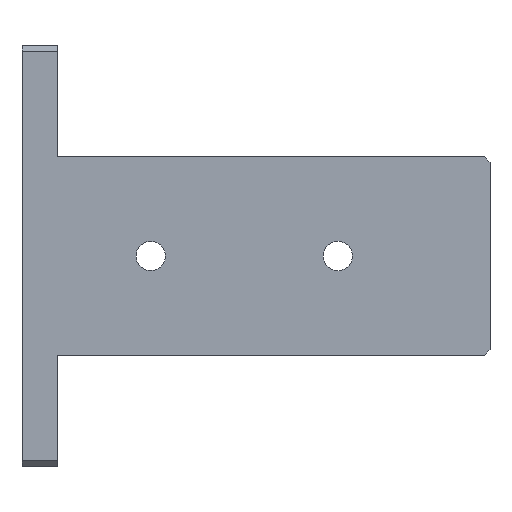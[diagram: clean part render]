
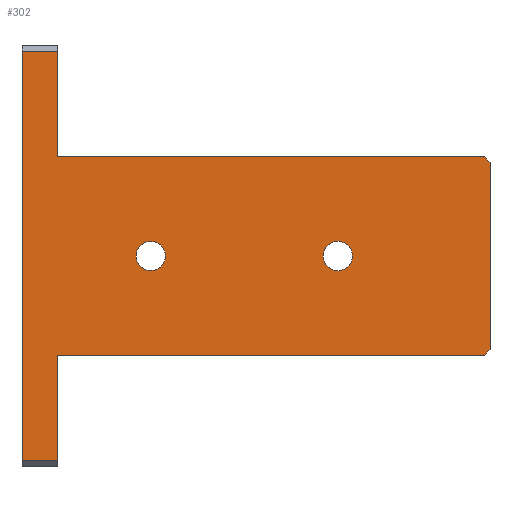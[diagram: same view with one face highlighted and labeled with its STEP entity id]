
A CAD part, front view. The second image highlights one B-rep face of the part: STEP entity #302.
In plain terms, the highlighted planar face has unit normal (0, -1, 0).
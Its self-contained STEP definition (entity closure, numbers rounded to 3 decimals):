
#13 = CARTESIAN_POINT ( 'NONE',  ( 3., 0., -17.5 ) ) ;
#47 = DIRECTION ( 'NONE',  ( 0., 0., 1. ) ) ;
#51 = VECTOR ( 'NONE', #587, 1000. ) ;
#59 = EDGE_LOOP ( 'NONE', ( #1165, #324 ) ) ;
#92 = ORIENTED_EDGE ( 'NONE', *, *, #1196, .T. ) ;
#103 = VERTEX_POINT ( 'NONE', #1677 ) ;
#117 = LINE ( 'NONE', #926, #297 ) ;
#125 = CARTESIAN_POINT ( 'NONE',  ( 0., 0., -17.5 ) ) ;
#137 = EDGE_CURVE ( 'NONE', #619, #795, #1133, .T. ) ;
#171 = ORIENTED_EDGE ( 'NONE', *, *, #286, .T. ) ;
#173 = CARTESIAN_POINT ( 'NONE',  ( 27., 0., 0. ) ) ;
#184 = LINE ( 'NONE', #1261, #51 ) ;
#190 = VECTOR ( 'NONE', #963, 1000. ) ;
#212 = CIRCLE ( 'NONE', #1203, 1.25 ) ;
#233 = EDGE_CURVE ( 'NONE', #727, #842, #1361, .T. ) ;
#246 = EDGE_CURVE ( 'NONE', #930, #438, #184, .T. ) ;
#256 = CARTESIAN_POINT ( 'NONE',  ( 11., 0., 1.25 ) ) ;
#261 = CARTESIAN_POINT ( 'NONE',  ( 0., 0., 18. ) ) ;
#263 = ORIENTED_EDGE ( 'NONE', *, *, #1345, .T. ) ;
#270 = VECTOR ( 'NONE', #1612, 1000. ) ;
#285 = DIRECTION ( 'NONE',  ( 0., 0., -1. ) ) ;
#286 = EDGE_CURVE ( 'NONE', #1040, #1009, #1757, .T. ) ;
#297 = VECTOR ( 'NONE', #523, 1000. ) ;
#302 = ADVANCED_FACE ( 'NONE', ( #1742, #1216, #1619 ), #656, .T. ) ;
#324 = ORIENTED_EDGE ( 'NONE', *, *, #907, .F. ) ;
#335 = VERTEX_POINT ( 'NONE', #908 ) ;
#359 = ORIENTED_EDGE ( 'NONE', *, *, #1100, .T. ) ;
#384 = DIRECTION ( 'NONE',  ( 1., 0., 0. ) ) ;
#388 = DIRECTION ( 'NONE',  ( 0., 0., -1. ) ) ;
#409 = CARTESIAN_POINT ( 'NONE',  ( 27., 0., 1.25 ) ) ;
#416 = EDGE_CURVE ( 'NONE', #795, #1040, #701, .T. ) ;
#426 = LINE ( 'NONE', #1639, #190 ) ;
#432 = ORIENTED_EDGE ( 'NONE', *, *, #137, .T. ) ;
#438 = VERTEX_POINT ( 'NONE', #959 ) ;
#493 = CARTESIAN_POINT ( 'NONE',  ( 0., 0., 17.5 ) ) ;
#508 = AXIS2_PLACEMENT_3D ( 'NONE', #261, #1314, #517 ) ;
#517 = DIRECTION ( 'NONE',  ( 0., 0., -1. ) ) ;
#518 = LINE ( 'NONE', #1052, #270 ) ;
#523 = DIRECTION ( 'NONE',  ( -0.707, 0., 0.707 ) ) ;
#533 = VECTOR ( 'NONE', #47, 1000. ) ;
#535 = CARTESIAN_POINT ( 'NONE',  ( 3., 0., 8.5 ) ) ;
#587 = DIRECTION ( 'NONE',  ( 1., 0., 0. ) ) ;
#619 = VERTEX_POINT ( 'NONE', #933 ) ;
#656 = PLANE ( 'NONE',  #508 ) ;
#682 = DIRECTION ( 'NONE',  ( 0., 0., -1. ) ) ;
#699 = CARTESIAN_POINT ( 'NONE',  ( 33., 0., -15. ) ) ;
#701 = LINE ( 'NONE', #823, #1448 ) ;
#715 = DIRECTION ( 'NONE',  ( 0., -1., 0. ) ) ;
#727 = VERTEX_POINT ( 'NONE', #1465 ) ;
#728 = AXIS2_PLACEMENT_3D ( 'NONE', #173, #715, #1253 ) ;
#731 = LINE ( 'NONE', #1387, #533 ) ;
#795 = VERTEX_POINT ( 'NONE', #944 ) ;
#797 = EDGE_CURVE ( 'NONE', #438, #335, #1638, .T. ) ;
#823 = CARTESIAN_POINT ( 'NONE',  ( 0., 0., 18. ) ) ;
#842 = VERTEX_POINT ( 'NONE', #256 ) ;
#857 = ORIENTED_EDGE ( 'NONE', *, *, #912, .F. ) ;
#907 = EDGE_CURVE ( 'NONE', #842, #727, #212, .T. ) ;
#908 = CARTESIAN_POINT ( 'NONE',  ( 40., 0., -8. ) ) ;
#912 = EDGE_CURVE ( 'NONE', #1413, #335, #518, .T. ) ;
#920 = EDGE_CURVE ( 'NONE', #103, #1316, #1759, .T. ) ;
#926 = CARTESIAN_POINT ( 'NONE',  ( 15., 0., 33. ) ) ;
#930 = VERTEX_POINT ( 'NONE', #1732 ) ;
#933 = CARTESIAN_POINT ( 'NONE',  ( 3., 0., 17.5 ) ) ;
#936 = EDGE_LOOP ( 'NONE', ( #1102, #1367 ) ) ;
#944 = CARTESIAN_POINT ( 'NONE',  ( 0., 0., 17.5 ) ) ;
#959 = CARTESIAN_POINT ( 'NONE',  ( 39.5, 0., -8.5 ) ) ;
#963 = DIRECTION ( 'NONE',  ( 0., 0., 1. ) ) ;
#1008 = ORIENTED_EDGE ( 'NONE', *, *, #246, .T. ) ;
#1009 = VERTEX_POINT ( 'NONE', #13 ) ;
#1027 = CARTESIAN_POINT ( 'NONE',  ( 11., 0., 0. ) ) ;
#1040 = VERTEX_POINT ( 'NONE', #1643 ) ;
#1052 = CARTESIAN_POINT ( 'NONE',  ( 40., 0., 18. ) ) ;
#1092 = AXIS2_PLACEMENT_3D ( 'NONE', #1027, #1141, #1587 ) ;
#1100 = EDGE_CURVE ( 'NONE', #1413, #103, #117, .T. ) ;
#1102 = ORIENTED_EDGE ( 'NONE', *, *, #1438, .F. ) ;
#1106 = VECTOR ( 'NONE', #1386, 1000. ) ;
#1110 = CARTESIAN_POINT ( 'NONE',  ( 40., 0., 8. ) ) ;
#1116 = VECTOR ( 'NONE', #1156, 1000. ) ;
#1128 = ORIENTED_EDGE ( 'NONE', *, *, #416, .T. ) ;
#1133 = LINE ( 'NONE', #493, #1116 ) ;
#1141 = DIRECTION ( 'NONE',  ( 0., -1., 0. ) ) ;
#1156 = DIRECTION ( 'NONE',  ( -1., 0., 0. ) ) ;
#1165 = ORIENTED_EDGE ( 'NONE', *, *, #233, .F. ) ;
#1171 = EDGE_LOOP ( 'NONE', ( #1008, #1558, #857, #359, #1340, #92, #432, #1128, #171, #263 ) ) ;
#1191 = CARTESIAN_POINT ( 'NONE',  ( 11., 0., 0. ) ) ;
#1196 = EDGE_CURVE ( 'NONE', #1316, #619, #426, .T. ) ;
#1203 = AXIS2_PLACEMENT_3D ( 'NONE', #1191, #1355, #388 ) ;
#1216 = FACE_BOUND ( 'NONE', #936, .T. ) ;
#1235 = CARTESIAN_POINT ( 'NONE',  ( 3., 0., 8.5 ) ) ;
#1247 = EDGE_CURVE ( 'NONE', #1301, #1468, #1534, .T. ) ;
#1253 = DIRECTION ( 'NONE',  ( 0., 0., -1. ) ) ;
#1261 = CARTESIAN_POINT ( 'NONE',  ( 3., 0., -8.5 ) ) ;
#1301 = VERTEX_POINT ( 'NONE', #409 ) ;
#1314 = DIRECTION ( 'NONE',  ( 0., -1., 0. ) ) ;
#1316 = VERTEX_POINT ( 'NONE', #1235 ) ;
#1331 = VECTOR ( 'NONE', #384, 1000. ) ;
#1340 = ORIENTED_EDGE ( 'NONE', *, *, #920, .T. ) ;
#1343 = DIRECTION ( 'NONE',  ( 0., -1., 0. ) ) ;
#1345 = EDGE_CURVE ( 'NONE', #1009, #930, #731, .T. ) ;
#1355 = DIRECTION ( 'NONE',  ( 0., -1., 0. ) ) ;
#1361 = CIRCLE ( 'NONE', #1092, 1.25 ) ;
#1367 = ORIENTED_EDGE ( 'NONE', *, *, #1247, .F. ) ;
#1370 = CARTESIAN_POINT ( 'NONE',  ( 27., 0., 0. ) ) ;
#1386 = DIRECTION ( 'NONE',  ( 0.707, 0., 0.707 ) ) ;
#1387 = CARTESIAN_POINT ( 'NONE',  ( 3., 0., -18. ) ) ;
#1413 = VERTEX_POINT ( 'NONE', #1110 ) ;
#1438 = EDGE_CURVE ( 'NONE', #1468, #1301, #1672, .T. ) ;
#1448 = VECTOR ( 'NONE', #285, 1000. ) ;
#1465 = CARTESIAN_POINT ( 'NONE',  ( 11., 0., -1.25 ) ) ;
#1468 = VERTEX_POINT ( 'NONE', #1538 ) ;
#1499 = VECTOR ( 'NONE', #1629, 1000. ) ;
#1534 = CIRCLE ( 'NONE', #1700, 1.25 ) ;
#1538 = CARTESIAN_POINT ( 'NONE',  ( 27., 0., -1.25 ) ) ;
#1558 = ORIENTED_EDGE ( 'NONE', *, *, #797, .T. ) ;
#1587 = DIRECTION ( 'NONE',  ( 0., 0., -1. ) ) ;
#1612 = DIRECTION ( 'NONE',  ( 0., 0., -1. ) ) ;
#1619 = FACE_BOUND ( 'NONE', #59, .T. ) ;
#1629 = DIRECTION ( 'NONE',  ( -1., 0., 0. ) ) ;
#1638 = LINE ( 'NONE', #699, #1106 ) ;
#1639 = CARTESIAN_POINT ( 'NONE',  ( 3., 0., 18. ) ) ;
#1643 = CARTESIAN_POINT ( 'NONE',  ( 0., 0., -17.5 ) ) ;
#1672 = CIRCLE ( 'NONE', #728, 1.25 ) ;
#1677 = CARTESIAN_POINT ( 'NONE',  ( 39.5, 0., 8.5 ) ) ;
#1700 = AXIS2_PLACEMENT_3D ( 'NONE', #1370, #1343, #682 ) ;
#1732 = CARTESIAN_POINT ( 'NONE',  ( 3., 0., -8.5 ) ) ;
#1742 = FACE_OUTER_BOUND ( 'NONE', #1171, .T. ) ;
#1757 = LINE ( 'NONE', #125, #1331 ) ;
#1759 = LINE ( 'NONE', #535, #1499 ) ;
